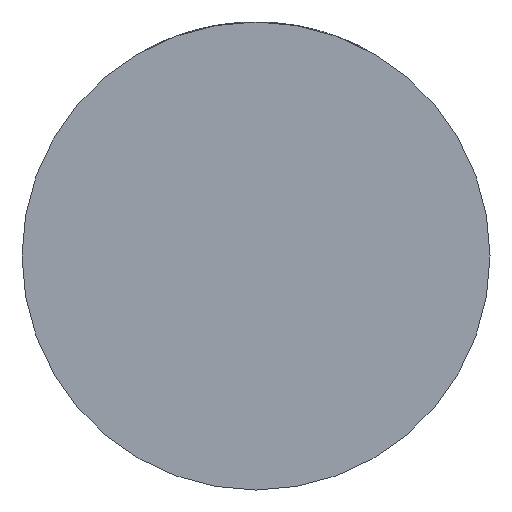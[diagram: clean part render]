
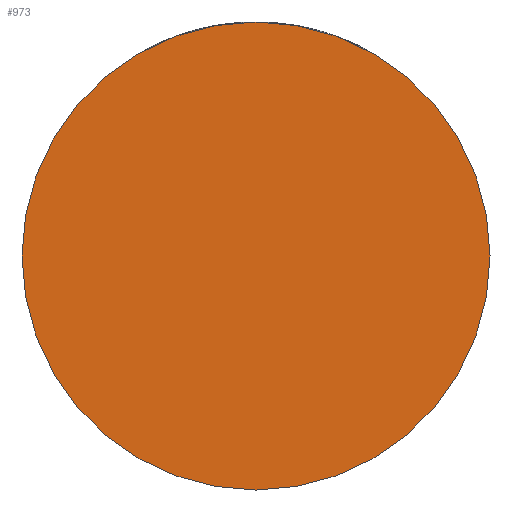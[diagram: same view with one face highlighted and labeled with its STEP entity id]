
A CAD part, front view. The second image highlights one B-rep face of the part: STEP entity #973.
In plain terms, the highlighted planar face has unit normal (0, -1, 0).
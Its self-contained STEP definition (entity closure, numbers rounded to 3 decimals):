
#49 = CIRCLE ( 'NONE', #3257, 39. ) ;
#127 = EDGE_LOOP ( 'NONE', ( #3833, #2428 ) ) ;
#313 = PLANE ( 'NONE',  #601 ) ;
#601 = AXIS2_PLACEMENT_3D ( 'NONE', #2085, #1408, #3181 ) ;
#867 = CIRCLE ( 'NONE', #4206, 39. ) ;
#973 = ADVANCED_FACE ( 'NONE', ( #1355 ), #313, .T. ) ;
#1131 = CARTESIAN_POINT ( 'NONE',  ( 0., -36., 0. ) ) ;
#1355 = FACE_OUTER_BOUND ( 'NONE', #127, .T. ) ;
#1408 = DIRECTION ( 'NONE',  ( 0., -1., 0. ) ) ;
#1747 = VERTEX_POINT ( 'NONE', #4147 ) ;
#1751 = VERTEX_POINT ( 'NONE', #3803 ) ;
#2085 = CARTESIAN_POINT ( 'NONE',  ( 0., -36., 0. ) ) ;
#2163 = DIRECTION ( 'NONE',  ( 0., -1., 0. ) ) ;
#2428 = ORIENTED_EDGE ( 'NONE', *, *, #3202, .T. ) ;
#2721 = EDGE_CURVE ( 'NONE', #1751, #1747, #49, .T. ) ;
#2767 = DIRECTION ( 'NONE',  ( 1., 0., 0. ) ) ;
#3181 = DIRECTION ( 'NONE',  ( 1., 0., 0. ) ) ;
#3202 = EDGE_CURVE ( 'NONE', #1747, #1751, #867, .T. ) ;
#3226 = DIRECTION ( 'NONE',  ( 1., 0., 0. ) ) ;
#3257 = AXIS2_PLACEMENT_3D ( 'NONE', #4224, #2163, #2767 ) ;
#3518 = DIRECTION ( 'NONE',  ( 0., -1., 0. ) ) ;
#3803 = CARTESIAN_POINT ( 'NONE',  ( -39., -36., 0. ) ) ;
#3833 = ORIENTED_EDGE ( 'NONE', *, *, #2721, .T. ) ;
#4147 = CARTESIAN_POINT ( 'NONE',  ( 39., -36., 0. ) ) ;
#4206 = AXIS2_PLACEMENT_3D ( 'NONE', #1131, #3518, #3226 ) ;
#4224 = CARTESIAN_POINT ( 'NONE',  ( 0., -36., 0. ) ) ;
